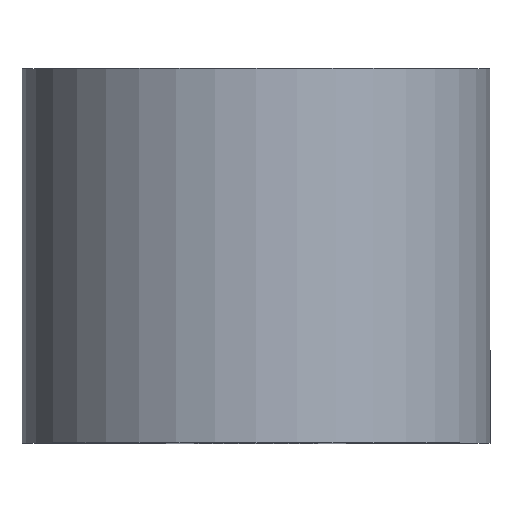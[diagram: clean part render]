
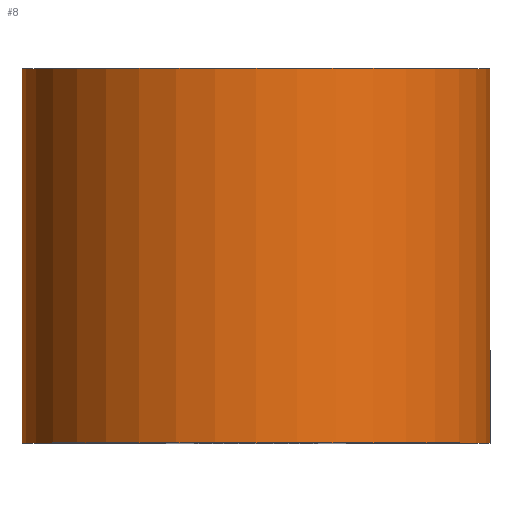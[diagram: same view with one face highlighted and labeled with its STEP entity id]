
A CAD part, top view. The second image highlights one B-rep face of the part: STEP entity #8.
In plain terms, the highlighted cylindrical face has radius 12.5 mm (diameter 25 mm), a partial arc.
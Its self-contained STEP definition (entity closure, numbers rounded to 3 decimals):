
#8 = ADVANCED_FACE ( 'NONE', ( #717 ), #883, .T. ) ;
#48 = DIRECTION ( 'NONE',  ( 0., 1., 0. ) ) ;
#57 = CIRCLE ( 'NONE', #183, 12.5 ) ;
#68 = CARTESIAN_POINT ( 'NONE',  ( 12.5, 0., 0. ) ) ;
#132 = CARTESIAN_POINT ( 'NONE',  ( 0., 10., 0. ) ) ;
#180 = VECTOR ( 'NONE', #869, 1000. ) ;
#183 = AXIS2_PLACEMENT_3D ( 'NONE', #644, #486, #557 ) ;
#267 = VERTEX_POINT ( 'NONE', #484 ) ;
#275 = ORIENTED_EDGE ( 'NONE', *, *, #951, .T. ) ;
#287 = AXIS2_PLACEMENT_3D ( 'NONE', #435, #954, #353 ) ;
#308 = EDGE_LOOP ( 'NONE', ( #275, #400, #901, #550 ) ) ;
#353 = DIRECTION ( 'NONE',  ( -1., 0., 0. ) ) ;
#361 = CARTESIAN_POINT ( 'NONE',  ( 12.5, 10., 0. ) ) ;
#364 = DIRECTION ( 'NONE',  ( 0., 1., 0. ) ) ;
#367 = AXIS2_PLACEMENT_3D ( 'NONE', #132, #48, #422 ) ;
#398 = VECTOR ( 'NONE', #364, 1000. ) ;
#400 = ORIENTED_EDGE ( 'NONE', *, *, #720, .T. ) ;
#422 = DIRECTION ( 'NONE',  ( -1., 0., 0. ) ) ;
#435 = CARTESIAN_POINT ( 'NONE',  ( 0., 0., 0. ) ) ;
#461 = EDGE_CURVE ( 'NONE', #267, #514, #945, .T. ) ;
#463 = CARTESIAN_POINT ( 'NONE',  ( 12.5, -10., 0. ) ) ;
#472 = VERTEX_POINT ( 'NONE', #361 ) ;
#484 = CARTESIAN_POINT ( 'NONE',  ( -12.5, -10., 0. ) ) ;
#486 = DIRECTION ( 'NONE',  ( 0., 1., 0. ) ) ;
#514 = VERTEX_POINT ( 'NONE', #594 ) ;
#515 = LINE ( 'NONE', #68, #398 ) ;
#550 = ORIENTED_EDGE ( 'NONE', *, *, #461, .F. ) ;
#557 = DIRECTION ( 'NONE',  ( -1., 0., 0. ) ) ;
#594 = CARTESIAN_POINT ( 'NONE',  ( -12.5, 10., 0. ) ) ;
#644 = CARTESIAN_POINT ( 'NONE',  ( 0., -10., 0. ) ) ;
#699 = CIRCLE ( 'NONE', #367, 12.5 ) ;
#710 = EDGE_CURVE ( 'NONE', #514, #472, #699, .T. ) ;
#717 = FACE_OUTER_BOUND ( 'NONE', #308, .T. ) ;
#720 = EDGE_CURVE ( 'NONE', #823, #472, #515, .T. ) ;
#783 = CARTESIAN_POINT ( 'NONE',  ( -12.5, 0., 0. ) ) ;
#823 = VERTEX_POINT ( 'NONE', #463 ) ;
#869 = DIRECTION ( 'NONE',  ( 0., 1., 0. ) ) ;
#883 = CYLINDRICAL_SURFACE ( 'NONE', #287, 12.5 ) ;
#901 = ORIENTED_EDGE ( 'NONE', *, *, #710, .F. ) ;
#945 = LINE ( 'NONE', #783, #180 ) ;
#951 = EDGE_CURVE ( 'NONE', #267, #823, #57, .T. ) ;
#954 = DIRECTION ( 'NONE',  ( 0., 1., 0. ) ) ;
